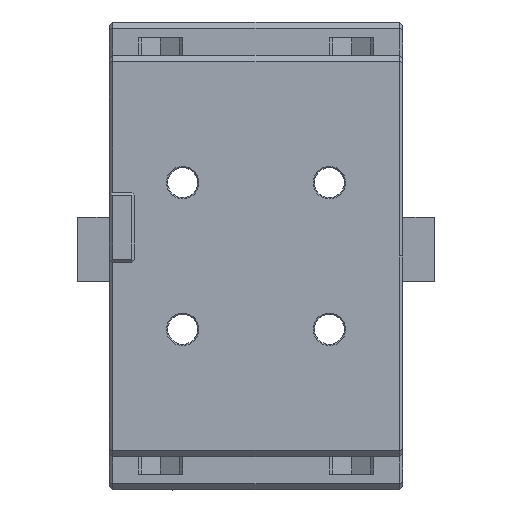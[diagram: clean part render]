
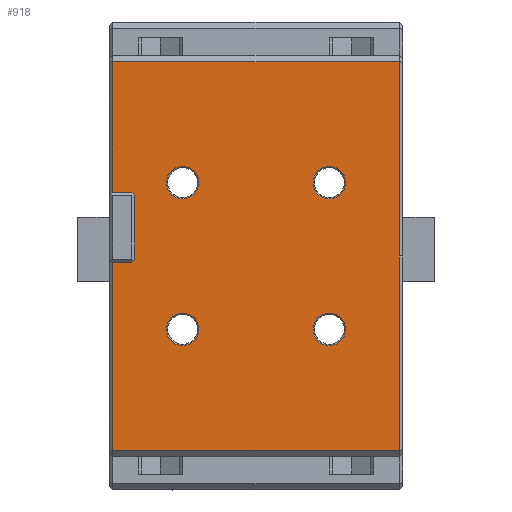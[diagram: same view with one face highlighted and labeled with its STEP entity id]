
A CAD part, front view. The second image highlights one B-rep face of the part: STEP entity #918.
In plain terms, the highlighted planar face has unit normal (0, -1, 0).
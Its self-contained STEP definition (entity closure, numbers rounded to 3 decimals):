
#712=CARTESIAN_POINT('Vertex',(-14.05,-13.,-11.5)) ;
#728=CARTESIAN_POINT('Vertex',(-8.95,-13.,-11.5)) ;
#731=CARTESIAN_POINT('Axis2P3D Location',(-11.5,-13.,-11.5)) ;
#753=CARTESIAN_POINT('Axis2P3D Location',(-11.5,-13.,-11.5)) ;
#765=CARTESIAN_POINT('Axis2P3D Location',(0.,-13.,0.)) ;
#770=CARTESIAN_POINT('Line Origine',(-21.,-13.,-1.)) ;
#774=CARTESIAN_POINT('Vertex',(-22.5,-13.,-1.)) ;
#776=CARTESIAN_POINT('Vertex',(-19.5,-13.,-1.)) ;
#779=CARTESIAN_POINT('Line Origine',(-22.5,-13.,-15.75)) ;
#783=CARTESIAN_POINT('Vertex',(-22.5,-13.,-30.5)) ;
#786=CARTESIAN_POINT('Line Origine',(0.,-13.,-30.5)) ;
#790=CARTESIAN_POINT('Vertex',(22.5,-13.,-30.5)) ;
#793=CARTESIAN_POINT('Line Origine',(22.5,-13.,-15.25)) ;
#797=CARTESIAN_POINT('Vertex',(22.5,-13.,0.)) ;
#800=CARTESIAN_POINT('Line Origine',(22.5,-13.,15.25)) ;
#804=CARTESIAN_POINT('Vertex',(22.5,-13.,30.5)) ;
#807=CARTESIAN_POINT('Line Origine',(0.,-13.,30.5)) ;
#811=CARTESIAN_POINT('Vertex',(-22.5,-13.,30.5)) ;
#814=CARTESIAN_POINT('Line Origine',(-22.5,-13.,20.25)) ;
#818=CARTESIAN_POINT('Vertex',(-22.5,-13.,10.)) ;
#821=CARTESIAN_POINT('Line Origine',(-21.,-13.,10.)) ;
#825=CARTESIAN_POINT('Vertex',(-19.5,-13.,10.)) ;
#828=CARTESIAN_POINT('Line Origine',(-19.25,-13.,9.75)) ;
#832=CARTESIAN_POINT('Vertex',(-19.,-13.,9.5)) ;
#835=CARTESIAN_POINT('Line Origine',(-19.,-13.,4.5)) ;
#839=CARTESIAN_POINT('Vertex',(-19.,-13.,-0.5)) ;
#842=CARTESIAN_POINT('Line Origine',(-19.25,-13.,-0.75)) ;
#864=CARTESIAN_POINT('Axis2P3D Location',(11.5,-13.,-11.5)) ;
#868=CARTESIAN_POINT('Vertex',(8.95,-13.,-11.5)) ;
#870=CARTESIAN_POINT('Vertex',(14.05,-13.,-11.5)) ;
#873=CARTESIAN_POINT('Axis2P3D Location',(11.5,-13.,-11.5)) ;
#882=CARTESIAN_POINT('Axis2P3D Location',(11.5,-13.,11.5)) ;
#886=CARTESIAN_POINT('Vertex',(8.95,-13.,11.5)) ;
#888=CARTESIAN_POINT('Vertex',(14.05,-13.,11.5)) ;
#891=CARTESIAN_POINT('Axis2P3D Location',(11.5,-13.,11.5)) ;
#900=CARTESIAN_POINT('Axis2P3D Location',(-11.5,-13.,11.5)) ;
#904=CARTESIAN_POINT('Vertex',(-8.95,-13.,11.5)) ;
#906=CARTESIAN_POINT('Vertex',(-14.05,-13.,11.5)) ;
#909=CARTESIAN_POINT('Axis2P3D Location',(-11.5,-13.,11.5)) ;
#732=DIRECTION('Axis2P3D Direction',(0.,1.,0.)) ;
#754=DIRECTION('Axis2P3D Direction',(0.,1.,0.)) ;
#766=DIRECTION('Axis2P3D Direction',(0.,1.,0.)) ;
#767=DIRECTION('Axis2P3D XDirection',(0.,0.,1.)) ;
#771=DIRECTION('Vector Direction',(1.,0.,0.)) ;
#780=DIRECTION('Vector Direction',(0.,0.,-1.)) ;
#787=DIRECTION('Vector Direction',(-1.,0.,0.)) ;
#794=DIRECTION('Vector Direction',(0.,0.,-1.)) ;
#801=DIRECTION('Vector Direction',(0.,0.,-1.)) ;
#808=DIRECTION('Vector Direction',(1.,0.,0.)) ;
#815=DIRECTION('Vector Direction',(0.,0.,-1.)) ;
#822=DIRECTION('Vector Direction',(1.,0.,0.)) ;
#829=DIRECTION('Vector Direction',(-0.707,0.,0.707)) ;
#836=DIRECTION('Vector Direction',(0.,0.,-1.)) ;
#843=DIRECTION('Vector Direction',(-0.707,0.,-0.707)) ;
#865=DIRECTION('Axis2P3D Direction',(0.,1.,0.)) ;
#874=DIRECTION('Axis2P3D Direction',(0.,1.,0.)) ;
#883=DIRECTION('Axis2P3D Direction',(0.,1.,0.)) ;
#892=DIRECTION('Axis2P3D Direction',(0.,1.,0.)) ;
#901=DIRECTION('Axis2P3D Direction',(0.,1.,0.)) ;
#910=DIRECTION('Axis2P3D Direction',(0.,1.,0.)) ;
#733=AXIS2_PLACEMENT_3D('Circle Axis2P3D',#731,#732,$) ;
#755=AXIS2_PLACEMENT_3D('Circle Axis2P3D',#753,#754,$) ;
#768=AXIS2_PLACEMENT_3D('Plane Axis2P3D',#765,#766,#767) ;
#866=AXIS2_PLACEMENT_3D('Circle Axis2P3D',#864,#865,$) ;
#875=AXIS2_PLACEMENT_3D('Circle Axis2P3D',#873,#874,$) ;
#884=AXIS2_PLACEMENT_3D('Circle Axis2P3D',#882,#883,$) ;
#893=AXIS2_PLACEMENT_3D('Circle Axis2P3D',#891,#892,$) ;
#902=AXIS2_PLACEMENT_3D('Circle Axis2P3D',#900,#901,$) ;
#911=AXIS2_PLACEMENT_3D('Circle Axis2P3D',#909,#910,$) ;
#848=ORIENTED_EDGE('',*,*,#778,.F.) ;
#849=ORIENTED_EDGE('',*,*,#785,.T.) ;
#850=ORIENTED_EDGE('',*,*,#792,.T.) ;
#851=ORIENTED_EDGE('',*,*,#799,.T.) ;
#852=ORIENTED_EDGE('',*,*,#806,.T.) ;
#853=ORIENTED_EDGE('',*,*,#813,.F.) ;
#854=ORIENTED_EDGE('',*,*,#820,.T.) ;
#855=ORIENTED_EDGE('',*,*,#827,.T.) ;
#856=ORIENTED_EDGE('',*,*,#834,.F.) ;
#857=ORIENTED_EDGE('',*,*,#841,.T.) ;
#858=ORIENTED_EDGE('',*,*,#846,.F.) ;
#861=ORIENTED_EDGE('',*,*,#757,.T.) ;
#862=ORIENTED_EDGE('',*,*,#735,.T.) ;
#879=ORIENTED_EDGE('',*,*,#872,.T.) ;
#880=ORIENTED_EDGE('',*,*,#877,.T.) ;
#897=ORIENTED_EDGE('',*,*,#890,.T.) ;
#898=ORIENTED_EDGE('',*,*,#895,.T.) ;
#915=ORIENTED_EDGE('',*,*,#908,.T.) ;
#916=ORIENTED_EDGE('',*,*,#913,.T.) ;
#863=FACE_BOUND('',#860,.T.) ;
#881=FACE_BOUND('',#878,.T.) ;
#899=FACE_BOUND('',#896,.T.) ;
#917=FACE_BOUND('',#914,.T.) ;
#772=VECTOR('Line Direction',#771,1.) ;
#781=VECTOR('Line Direction',#780,1.) ;
#788=VECTOR('Line Direction',#787,1.) ;
#795=VECTOR('Line Direction',#794,1.) ;
#802=VECTOR('Line Direction',#801,1.) ;
#809=VECTOR('Line Direction',#808,1.) ;
#816=VECTOR('Line Direction',#815,1.) ;
#823=VECTOR('Line Direction',#822,1.) ;
#830=VECTOR('Line Direction',#829,1.) ;
#837=VECTOR('Line Direction',#836,1.) ;
#844=VECTOR('Line Direction',#843,1.) ;
#918=ADVANCED_FACE('PartBody',(#859,#863,#881,#899,#917),#769,.F.) ;
#734=CIRCLE('generated circle',#733,2.55) ;
#756=CIRCLE('generated circle',#755,2.55) ;
#867=CIRCLE('generated circle',#866,2.55) ;
#876=CIRCLE('generated circle',#875,2.55) ;
#885=CIRCLE('generated circle',#884,2.55) ;
#894=CIRCLE('generated circle',#893,2.55) ;
#903=CIRCLE('generated circle',#902,2.55) ;
#912=CIRCLE('generated circle',#911,2.55) ;
#735=EDGE_CURVE('',#713,#729,#734,.T.) ;
#757=EDGE_CURVE('',#729,#713,#756,.T.) ;
#778=EDGE_CURVE('',#775,#777,#773,.T.) ;
#785=EDGE_CURVE('',#775,#784,#782,.T.) ;
#792=EDGE_CURVE('',#784,#791,#789,.F.) ;
#799=EDGE_CURVE('',#791,#798,#796,.F.) ;
#806=EDGE_CURVE('',#798,#805,#803,.F.) ;
#813=EDGE_CURVE('',#812,#805,#810,.T.) ;
#820=EDGE_CURVE('',#812,#819,#817,.T.) ;
#827=EDGE_CURVE('',#819,#826,#824,.T.) ;
#834=EDGE_CURVE('',#833,#826,#831,.T.) ;
#841=EDGE_CURVE('',#833,#840,#838,.T.) ;
#846=EDGE_CURVE('',#777,#840,#845,.F.) ;
#872=EDGE_CURVE('',#869,#871,#867,.T.) ;
#877=EDGE_CURVE('',#871,#869,#876,.T.) ;
#890=EDGE_CURVE('',#887,#889,#885,.T.) ;
#895=EDGE_CURVE('',#889,#887,#894,.T.) ;
#908=EDGE_CURVE('',#905,#907,#903,.T.) ;
#913=EDGE_CURVE('',#907,#905,#912,.T.) ;
#847=EDGE_LOOP('',(#848,#849,#850,#851,#852,#853,#854,#855,#856,#857,#858)) ;
#860=EDGE_LOOP('',(#861,#862)) ;
#878=EDGE_LOOP('',(#879,#880)) ;
#896=EDGE_LOOP('',(#897,#898)) ;
#914=EDGE_LOOP('',(#915,#916)) ;
#859=FACE_OUTER_BOUND('',#847,.T.) ;
#773=LINE('Line',#770,#772) ;
#782=LINE('Line',#779,#781) ;
#789=LINE('Line',#786,#788) ;
#796=LINE('Line',#793,#795) ;
#803=LINE('Line',#800,#802) ;
#810=LINE('Line',#807,#809) ;
#817=LINE('Line',#814,#816) ;
#824=LINE('Line',#821,#823) ;
#831=LINE('Line',#828,#830) ;
#838=LINE('Line',#835,#837) ;
#845=LINE('Line',#842,#844) ;
#769=PLANE('Plane',#768) ;
#713=VERTEX_POINT('',#712) ;
#729=VERTEX_POINT('',#728) ;
#775=VERTEX_POINT('',#774) ;
#777=VERTEX_POINT('',#776) ;
#784=VERTEX_POINT('',#783) ;
#791=VERTEX_POINT('',#790) ;
#798=VERTEX_POINT('',#797) ;
#805=VERTEX_POINT('',#804) ;
#812=VERTEX_POINT('',#811) ;
#819=VERTEX_POINT('',#818) ;
#826=VERTEX_POINT('',#825) ;
#833=VERTEX_POINT('',#832) ;
#840=VERTEX_POINT('',#839) ;
#869=VERTEX_POINT('',#868) ;
#871=VERTEX_POINT('',#870) ;
#887=VERTEX_POINT('',#886) ;
#889=VERTEX_POINT('',#888) ;
#905=VERTEX_POINT('',#904) ;
#907=VERTEX_POINT('',#906) ;
